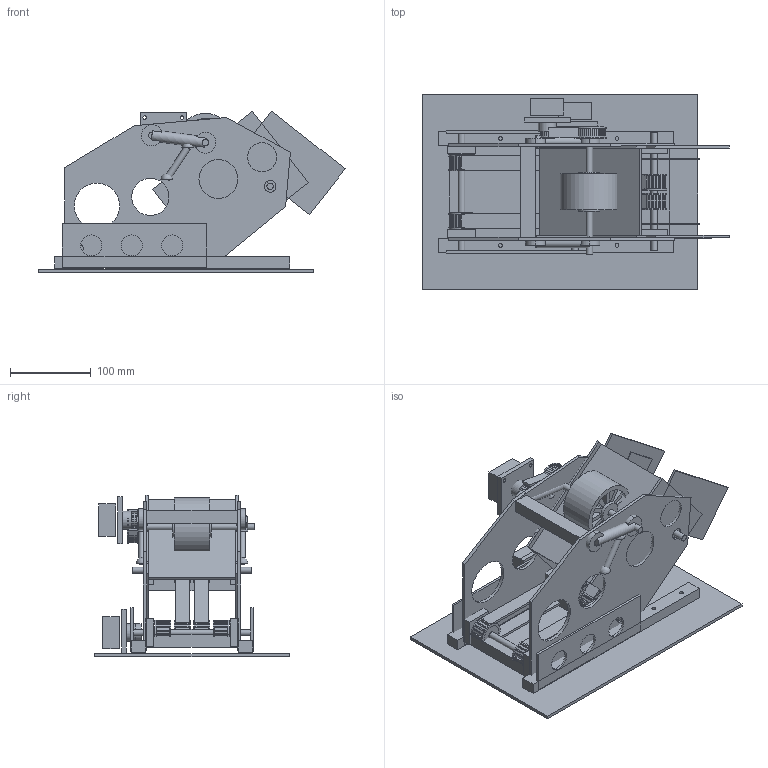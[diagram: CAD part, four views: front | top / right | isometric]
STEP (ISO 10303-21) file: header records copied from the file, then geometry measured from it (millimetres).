
FILE_DESCRIPTION(('Open CASCADE Model'),'2;1');
FILE_NAME('Open CASCADE Shape Model','2026-09-21T09:25:57',('Author'),( 'Open CASCADE'),'Open CASCADE STEP processor 7.8','Open CASCADE 7.8' ,'Unknown');
FILE_SCHEMA(('AUTOMOTIVE_DESIGN { 1 0 10303 214 1 1 1 1 }'));
Length unit declared in the file: millimetre
Products named in the file (71): continuous_servo_feeder; 00_xy_chassis_reference; side_frame_-1; side_frame_+1; crossmember_-118_16; crossmember_18_16; crossmember_136_86; crossmember_-30_169; chassis_rail_-66; chassis_rail_+66; shaft_horizontal_return; bearing_block_horizontal_return_-1; bearing_horizontal_return_-1; bearing_block_horizontal_return_+1; bearing_horizontal_return_+1; shaft_junction_drive; bearing_block_junction_drive_-1; bearing_junction_drive_-1; bearing_block_junction_drive_+1; bearing_junction_drive_+1; shaft_incline_return; bearing_block_incline_return_-1; bearing_incline_return_-1; bearing_block_incline_return_+1; bearing_incline_return_+1; pulley_horizontal_return_-36; pulley_horizontal_drive_-36; belt_horizontal_top_-36; belt_horizontal_return_-36; pulley_horizontal_return_36; pulley_horizontal_drive_36; belt_horizontal_top_36; belt_horizontal_return_36; pulley_incline_drive_-12; pulley_incline_return_-12; belt_incline_top_-12; belt_incline_return_-12; pulley_incline_drive_12; pulley_incline_return_12; belt_incline_top_12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
Assembly tree (70 placements, depth 2):
  continuous_servo_feeder
    00_xy_chassis_reference
    side_frame_-1
    side_frame_+1
    crossmember_-118_16
    crossmember_18_16
    crossmember_136_86
    crossmember_-30_169
    chassis_rail_-66
    chassis_rail_+66
    shaft_horizontal_return
    bearing_block_horizontal_return_-1
    bearing_horizontal_return_-1
    bearing_block_horizontal_return_+1
    bearing_horizontal_return_+1
    shaft_junction_drive
    bearing_block_junction_drive_-1
    bearing_junction_drive_-1
    bearing_block_junction_drive_+1
    bearing_junction_drive_+1
    shaft_incline_return
    bearing_block_incline_return_-1
    bearing_incline_return_-1
    bearing_block_incline_return_+1
    bearing_incline_return_+1
    pulley_horizontal_return_-36
    pulley_horizontal_drive_-36
    belt_horizontal_top_-36
    belt_horizontal_return_-36
    pulley_horizontal_return_36
    pulley_horizontal_drive_36
    belt_horizontal_top_36
    belt_horizontal_return_36
    pulley_incline_drive_-12
    pulley_incline_return_-12
    belt_incline_top_-12
    belt_incline_return_-12
    pulley_incline_drive_12
    pulley_incline_return_12
    belt_incline_top_12
    belt_incline_return_12
    belt_drive_servo_envelope_0
    belt_drive_servo_block_plate_1
    belt_drive_servo_output_hub_2
    junction_shaft_coupler
    incline_guide_wall_-1
    incline_guide_wall_+1
    incline_guide_roof
    pinch_swing_arm_-1
    pinch_preload_link_-1
    pinch_preload_eye_a_-1
    pinch_preload_eye_b_-1
    pinch_swing_arm_+1
    pinch_preload_link_+1
    pinch_preload_eye_a_+1
    pinch_preload_eye_b_+1
    pinch_shaft
    pinch_compliant_roller
    pinch_drive_servo_envelope_0
    pinch_drive_servo_block_plate_1
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Bounding box: 378.87 x 240 x 200.08 mm (x, y, z)
Volume: 1675195.2 mm3; surface area: 814981.2 mm2
Topology: 70 solids, 70 shells, 1540 faces, 4116 edges, 2744 vertices
Faces by surface type: plane 1212, cylinder 324, sphere 4
Full cylindrical faces by diameter (mm): 4.4 x20, 4.6 x20, 8 x6, 8.1 x6, 8.2 x4, 8.3 x30, 14 x8, 14.2 x6, 14.3 x8, 16.4 x2, 19 x2, 22 x3, 26 x7, 31 x16, 36 x2, 41.4 x2, 46 x2, 48 x2, 56 x2, 60 x1, 72 x1
Entity records: 99459 total; most frequent: CARTESIAN_POINT 22119, DIRECTION 11682, ORIENTED_EDGE 8224, PCURVE 8224, DEFINITIONAL_REPRESENTATION 8224, LINE 6376, VECTOR 6376, B_SPLINE_CURVE_WITH_KNOTS 4540
